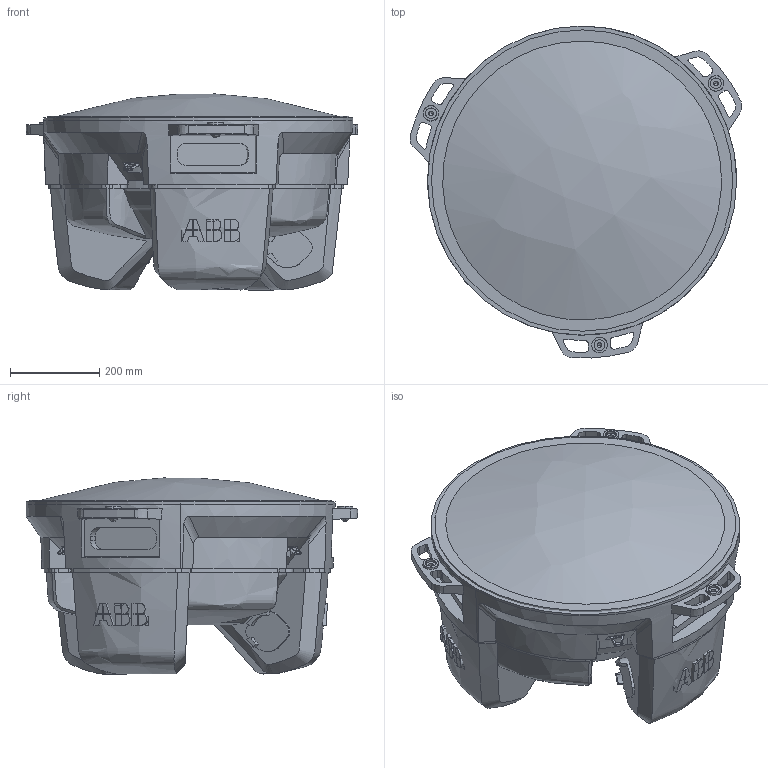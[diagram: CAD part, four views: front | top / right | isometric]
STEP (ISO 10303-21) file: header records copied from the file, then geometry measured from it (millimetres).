
FILE_DESCRIPTION (( 'STEP AP214' ), '1' );
FILE_NAME ('IRB360_8-1130-STD-4D_rev03_BASE_CAD.STEP', '2026-01-12T10:10:12', ( '' ), ( '' ), 'SwSTEP 2.0', 'SolidWorks 2024', '' );
FILE_SCHEMA (( 'AUTOMOTIVE_DESIGN' ));
Length unit declared in the file: millimetre
Products named in the file (1): IRB360_8-1130-STD-4D_rev03_BASE_CAD
Bounding box: 742.47 x 742.66 x 438.46 mm (x, y, z)
Volume: 112650950 mm3; surface area: 3789243.6 mm2
Topology: 13 solids, 13 shells, 737 faces, 2066 edges, 1365 vertices
Faces by surface type: plane 323, cylinder 141, bspline 138, cone 133, torus 2
Entity records: 65174 total; most frequent: CARTESIAN_POINT 47520, ORIENTED_EDGE 4108, DIRECTION 3035, EDGE_CURVE 2054, VERTEX_POINT 1365, AXIS2_PLACEMENT_3D 1062, VECTOR 911, LINE 911
